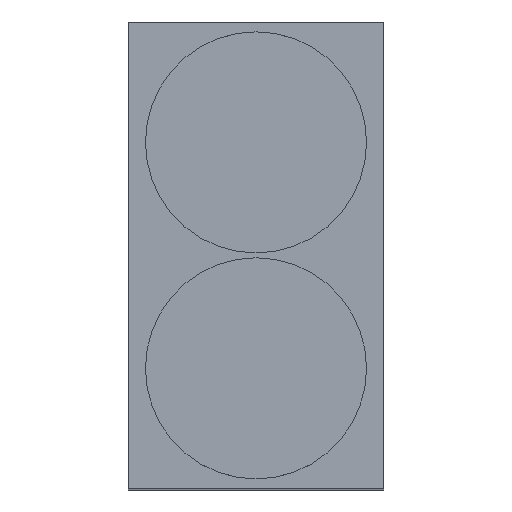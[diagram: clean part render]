
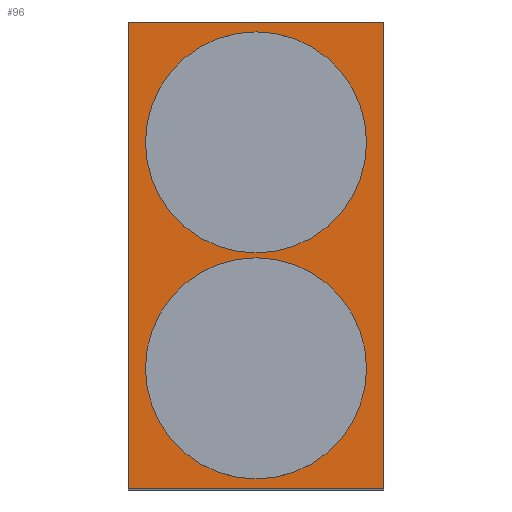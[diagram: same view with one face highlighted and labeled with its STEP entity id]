
A CAD part, top view. The second image highlights one B-rep face of the part: STEP entity #96.
In plain terms, the highlighted planar face has unit normal (0, 0, 1) as drawn and (-1, 0, 0) by its records, which use the part's own axes.
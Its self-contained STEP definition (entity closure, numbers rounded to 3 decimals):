
#9 = EDGE_CURVE ( 'NONE', #11, #12, #347, .T. ) ;
#10 = VERTEX_POINT ( 'NONE', #348 ) ;
#11 = VERTEX_POINT ( 'NONE', #298 ) ;
#12 = VERTEX_POINT ( 'NONE', #297 ) ;
#19 = EDGE_CURVE ( 'NONE', #24, #10, #330, .T. ) ;
#24 = VERTEX_POINT ( 'NONE', #383 ) ;
#56 = ORIENTED_EDGE ( 'NONE', *, *, #57, .T. ) ;
#57 = EDGE_CURVE ( 'NONE', #106, #58, #368, .T. ) ;
#58 = VERTEX_POINT ( 'NONE', #364 ) ;
#59 = ORIENTED_EDGE ( 'NONE', *, *, #60, .T. ) ;
#60 = EDGE_CURVE ( 'NONE', #58, #61, #363, .T. ) ;
#61 = VERTEX_POINT ( 'NONE', #359 ) ;
#62 = ORIENTED_EDGE ( 'NONE', *, *, #63, .F. ) ;
#63 = EDGE_CURVE ( 'NONE', #64, #61, #358, .T. ) ;
#64 = VERTEX_POINT ( 'NONE', #354 ) ;
#65 = ORIENTED_EDGE ( 'NONE', *, *, #66, .F. ) ;
#66 = EDGE_CURVE ( 'NONE', #106, #64, #353, .T. ) ;
#96 = ADVANCED_FACE ( 'NONE', ( #404, #403, #402 ), #401, .F. ) ;
#97 = EDGE_LOOP ( 'NONE', ( #98, #100 ) ) ;
#98 = ORIENTED_EDGE ( 'NONE', *, *, #99, .F. ) ;
#99 = EDGE_CURVE ( 'NONE', #10, #24, #396, .T. ) ;
#100 = ORIENTED_EDGE ( 'NONE', *, *, #19, .F. ) ;
#101 = EDGE_LOOP ( 'NONE', ( #102, #104 ) ) ;
#102 = ORIENTED_EDGE ( 'NONE', *, *, #103, .F. ) ;
#103 = EDGE_CURVE ( 'NONE', #12, #11, #390, .T. ) ;
#104 = ORIENTED_EDGE ( 'NONE', *, *, #9, .F. ) ;
#105 = EDGE_LOOP ( 'NONE', ( #56, #59, #62, #65 ) ) ;
#106 = VERTEX_POINT ( 'NONE', #391 ) ;
#297 = CARTESIAN_POINT ( 'NONE',  ( 0., 0., -0.05 ) ) ;
#298 = CARTESIAN_POINT ( 'NONE',  ( 0., 0., -4.55 ) ) ;
#327 = DIRECTION ( 'NONE',  ( 0., 0., 1. ) ) ;
#328 = DIRECTION ( 'NONE',  ( -1., 0., 0. ) ) ;
#329 = AXIS2_PLACEMENT_3D ( 'NONE', #425, #328, #327 ) ;
#330 = CIRCLE ( 'NONE', #329, 2.25 ) ;
#343 = DIRECTION ( 'NONE',  ( 0., 0., 1. ) ) ;
#344 = DIRECTION ( 'NONE',  ( -1., 0., 0. ) ) ;
#345 = CARTESIAN_POINT ( 'NONE',  ( 0., 0., -2.3 ) ) ;
#346 = AXIS2_PLACEMENT_3D ( 'NONE', #345, #344, #343 ) ;
#347 = CIRCLE ( 'NONE', #346, 2.25 ) ;
#348 = CARTESIAN_POINT ( 'NONE',  ( 0., 0., 4.55 ) ) ;
#350 = DIRECTION ( 'NONE',  ( 0., 0., 1. ) ) ;
#351 = VECTOR ( 'NONE', #350, 1000. ) ;
#352 = CARTESIAN_POINT ( 'NONE',  ( 0., 2.6, -4.75 ) ) ;
#353 = LINE ( 'NONE', #352, #351 ) ;
#354 = CARTESIAN_POINT ( 'NONE',  ( 0., 2.6, 4.75 ) ) ;
#355 = DIRECTION ( 'NONE',  ( 0., -1., 0. ) ) ;
#356 = VECTOR ( 'NONE', #355, 1000. ) ;
#357 = CARTESIAN_POINT ( 'NONE',  ( 0., 2.6, 4.75 ) ) ;
#358 = LINE ( 'NONE', #357, #356 ) ;
#359 = CARTESIAN_POINT ( 'NONE',  ( 0., -2.6, 4.75 ) ) ;
#360 = DIRECTION ( 'NONE',  ( 0., 0., 1. ) ) ;
#361 = VECTOR ( 'NONE', #360, 1000. ) ;
#362 = CARTESIAN_POINT ( 'NONE',  ( 0., -2.6, -4.75 ) ) ;
#363 = LINE ( 'NONE', #362, #361 ) ;
#364 = CARTESIAN_POINT ( 'NONE',  ( 0., -2.6, -4.75 ) ) ;
#365 = DIRECTION ( 'NONE',  ( 0., -1., 0. ) ) ;
#366 = VECTOR ( 'NONE', #365, 1000. ) ;
#367 = CARTESIAN_POINT ( 'NONE',  ( 0., 2.6, -4.75 ) ) ;
#368 = LINE ( 'NONE', #367, #366 ) ;
#383 = CARTESIAN_POINT ( 'NONE',  ( 0., 0., 0.05 ) ) ;
#386 = DIRECTION ( 'NONE',  ( 0., 0., 1. ) ) ;
#387 = DIRECTION ( 'NONE',  ( -1., 0., 0. ) ) ;
#388 = CARTESIAN_POINT ( 'NONE',  ( 0., 0., -2.3 ) ) ;
#389 = AXIS2_PLACEMENT_3D ( 'NONE', #388, #387, #386 ) ;
#390 = CIRCLE ( 'NONE', #389, 2.25 ) ;
#391 = CARTESIAN_POINT ( 'NONE',  ( 0., 2.6, -4.75 ) ) ;
#392 = DIRECTION ( 'NONE',  ( 0., 0., 1. ) ) ;
#393 = DIRECTION ( 'NONE',  ( -1., 0., 0. ) ) ;
#394 = CARTESIAN_POINT ( 'NONE',  ( 0., 0., 2.3 ) ) ;
#395 = AXIS2_PLACEMENT_3D ( 'NONE', #394, #393, #392 ) ;
#396 = CIRCLE ( 'NONE', #395, 2.25 ) ;
#397 = DIRECTION ( 'NONE',  ( 0., 0., -1. ) ) ;
#398 = DIRECTION ( 'NONE',  ( 1., 0., 0. ) ) ;
#399 = CARTESIAN_POINT ( 'NONE',  ( 0., 2.6, -4.75 ) ) ;
#400 = AXIS2_PLACEMENT_3D ( 'NONE', #399, #398, #397 ) ;
#401 = PLANE ( 'NONE',  #400 ) ;
#402 = FACE_OUTER_BOUND ( 'NONE', #105, .T. ) ;
#403 = FACE_BOUND ( 'NONE', #101, .T. ) ;
#404 = FACE_BOUND ( 'NONE', #97, .T. ) ;
#425 = CARTESIAN_POINT ( 'NONE',  ( 0., 0., 2.3 ) ) ;
